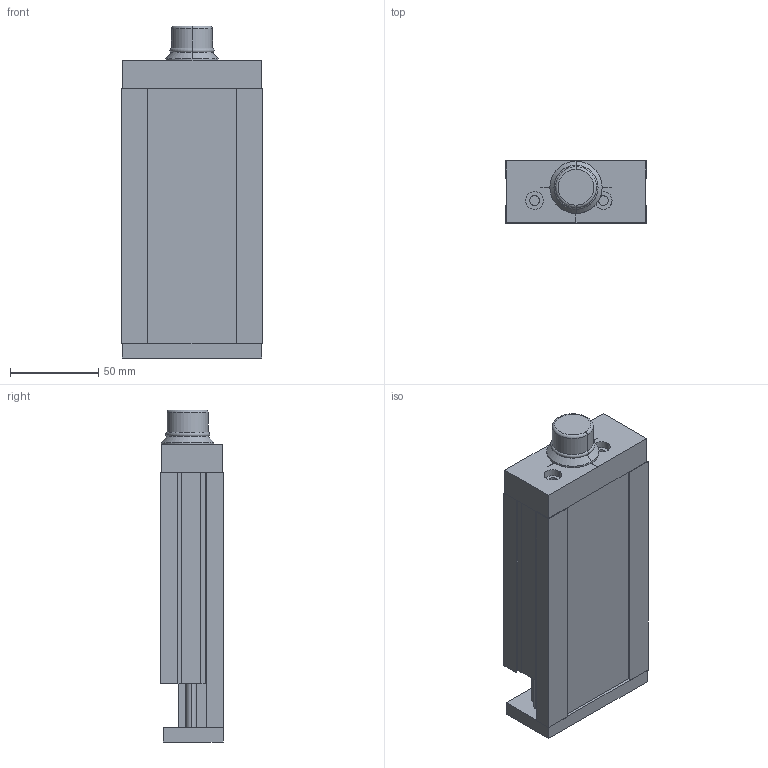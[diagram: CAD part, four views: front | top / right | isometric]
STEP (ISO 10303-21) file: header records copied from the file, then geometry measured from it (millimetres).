
FILE_DESCRIPTION (( 'STEP AP203' ), '1' );
FILE_NAME ('domiLINE 80 Hub 25.STEP', '2004-01-12T08:56:35', ( '' ), ( '' ), 'SwSTEP 2.0', 'SolidWorks 2003064', '' );
FILE_SCHEMA (( 'CONFIG_CONTROL_DESIGN' ));
Length unit declared in the file: millimetre
Products named in the file (3): domiLINE 80 Hub 25; dL80 neu light-+-D003977_ _25; Aussen neu light 80-+-D003976_ _Standard
Assembly tree (2 placements, depth 2):
  domiLINE 80 Hub 25
    dL80 neu light-+-D003977_ _25
    Aussen neu light 80-+-D003976_ _Standard
Bounding box: 80 x 36 x 188.5 mm (x, y, z)
Volume: 380499.3 mm3; surface area: 103219.5 mm2
Topology: 2 solids, 3 shells, 166 faces, 426 edges, 278 vertices
Faces by surface type: plane 114, cylinder 46, torus 4, cone 2
Entity records: 5333 total; most frequent: CARTESIAN_POINT 875, DIRECTION 872, ORIENTED_EDGE 852, EDGE_CURVE 426, LINE 322, VECTOR 322, VERTEX_POINT 278, AXIS2_PLACEMENT_3D 275
